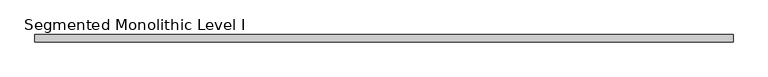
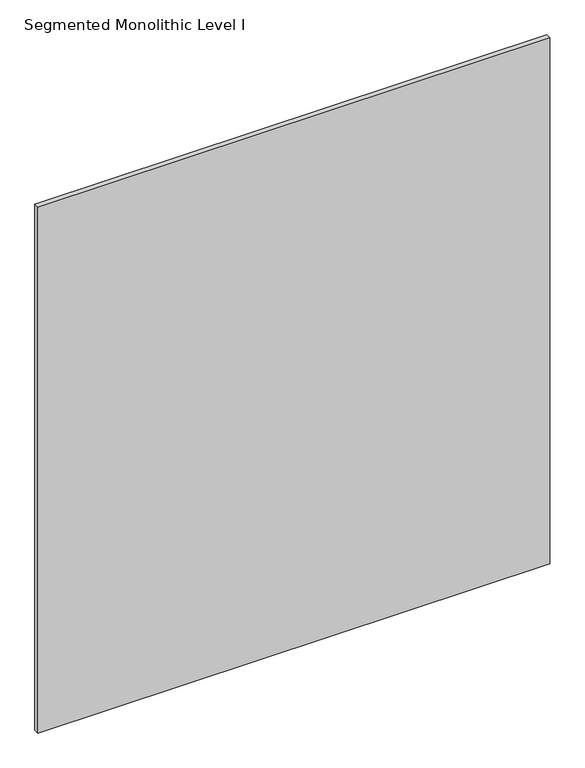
"""IFC4 building model written with IfcOpenShell, lengths in millimetres: proxy geometry, Panel-Fascia-Teknion-Altos-Standard : Segmented Monolithic Level I."""

from ifc_helpers import new_model, si_unit, frame, origin, place, context, project, spatial, polyline, outline, extrude, source, transform, mapped, element, save


def segmented_monolithic_level_i_ac18bccb(model_context):
    return source(origin(), model_context, "Body", "SweptSolid", [
        extrude(outline(polyline([(911.225, 9.525), (911.225, -9.525), (-911.225, -9.525), (-911.225, 9.525), (911.225, 9.525)])), frame((0.0, 0.0, 3.175), z_axis=(0.0, 0.0, 1.0), x_axis=(1.0, 0.0, 0.0)), (0.0, 0.0, 1.0), 1979.168),
    ])


if __name__ == "__main__":
    model = new_model("IFC4")
    model_context = context("Model", 3, world=origin())
    ifc_project = project(units=[si_unit("LENGTHUNIT", "METRE", prefix="MILLI")], contexts=[model_context])
    site = spatial("IfcSite", under=ifc_project)
    building = spatial("IfcBuilding", under=site)
    placement = place(None, origin())
    segmented_monolithic_level_i_shape = segmented_monolithic_level_i_ac18bccb(model_context)
    element("IfcBuildingElementProxy", 1, Name="Panel-Fascia-Teknion-Altos-Standard : Segmented Monolithic Level I", ObjectType="Panel-Fascia-Teknion-Altos-Standard : Segmented Monolithic Level I", at=placement, inside=building, context=model_context, shape_type="MappedRepresentation", body=[
        mapped(segmented_monolithic_level_i_shape, transform((0.0, 0.0, 0.0), x_axis=(1.0, 0.0, 0.0), y_axis=(0.0, 1.0, 0.0), z_axis=(0.0, 0.0, 1.0))),
    ])
    save(model, "model.ifc")
